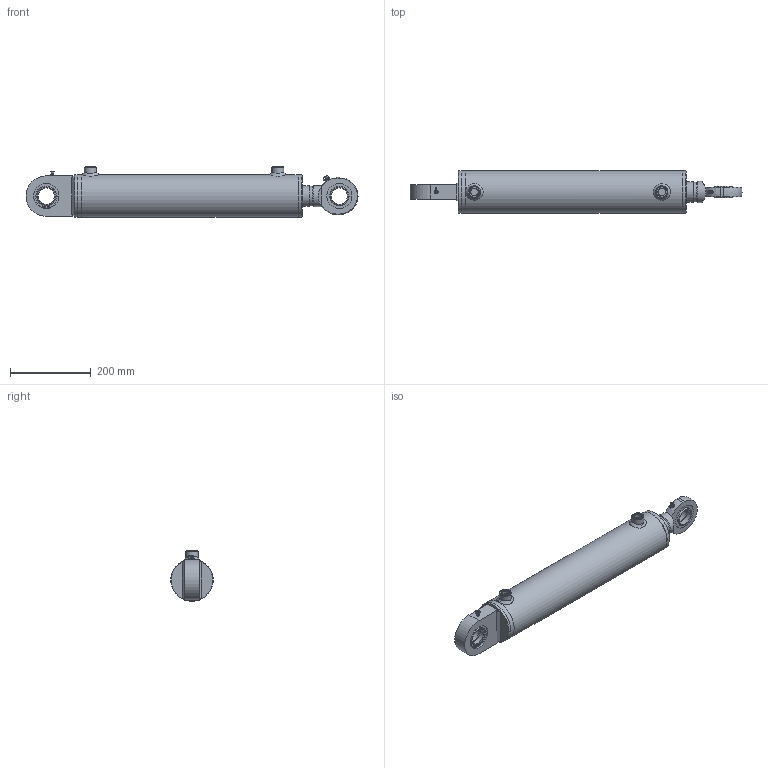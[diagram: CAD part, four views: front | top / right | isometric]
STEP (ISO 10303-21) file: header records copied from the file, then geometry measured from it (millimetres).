
FILE_DESCRIPTION( ( 'Unknown' ), '1' );
FILE_NAME( 'E:/LIBRERIA_3d/CILINDRI/HMB/HMB090500400.stp', 'Unknown', ( 'Unknown' ), ( 'Unknown' ), 'PSStep 17.0.49', 'Unknown', ' ' );
FILE_SCHEMA( ( 'AUTOMOTIVE_DESIGN { 1 0 10303 214 1 1 1 1 }' ) );
Length unit declared in the file: millimetre
Products named in the file (38): CT00090033; CG10509050; CSTSF040N0; AN00006001; CSTS040N_CORPO-oa0; CSCSEI0062; CSCSEI0062-oa1; STL0901050400-oa8; Saldatura d'angolo 1-oa6; MAT_PRIMA_TUBO_FT10509000-oa7; CBSC220800; CSTSF040C0; tsc40c_CORPO; HM0090500400; CF00090105; CBS0800000; APG0800000; CDA0003320; Saldatura con preparazione 1-oa4; Saldatura d'angolo 1-oa5; SBL0500900400; CSTS040N00; CGE0400000; APGR013000; CSTS040C00; Assem1; Saldatura d'angolo 3-oa2; Saldatura d'angolo 2-oa3
Assembly tree (30 placements, depth 4):
  Saldatura d'angolo 1-oa6
  Saldatura d'angolo 1-oa6
  Saldatura d'angolo 1-oa5
  Saldatura d'angolo 1-oa5
  Assem1
    CSTS040N00
      CGE0400000
      APGR013000
      CSTSF040N0
        AN00006001
        CSTS040N_CORPO-oa0
        CSCSEI0062
        CSCSEI0062-oa1
    CSTS040C00
      CGE0400000
      APGR013000
      CSTSF040C0
        tsc40c_CORPO
        AN00006001
    HM0090500400
      CF00090105
      CBS0800000
      APG0800000  x2
      CDA0003320
      Saldatura con preparazione 1-oa4
      Saldatura con preparazione 1-oa4
      SBL0500900400
      CG10509050
        CG10509050
      CT00090033
        CT00090033
      STL0901050400-oa8
        MAT_PRIMA_TUBO_FT10509000-oa7
        CBSC220800
Bounding box: 820 x 105 x 125 mm (x, y, z)
Volume: 3430609.8 mm3; surface area: 683268.6 mm2
Topology: 32 solids, 32 shells, 378 faces, 784 edges, 505 vertices
Faces by surface type: plane 154, cylinder 104, cone 41, torus 40, bspline 30, sphere 9
Full cylindrical faces by diameter (mm): 2.5 x8, 4 x1, 4.25 x2, 5 x6, 6 x2, 8 x4, 9 x2, 12 x1, 18.631 x2, 19.5 x2, 20.95 x2, 26 x2, 30 x2, 32.4 x1, 33 x5, 39.2 x1, 40 x4, 50 x6, 52 x1, 53 x3, 58.6 x1, 60 x1, 62 x8, 65 x2, 70 x1, 81.5 x1, 84.15 x2, 88.31 x2, 89.9 x1, 90 x1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
Entity records: 15735 total; most frequent: CARTESIAN_POINT 6479, DIRECTION 1404, ORIENTED_EDGE 932, AXIS2_PLACEMENT_3D 630, EDGE_LOOP 592, FACE_OUTER_BOUND 470, EDGE_CURVE 466, VERTEX_POINT 389
